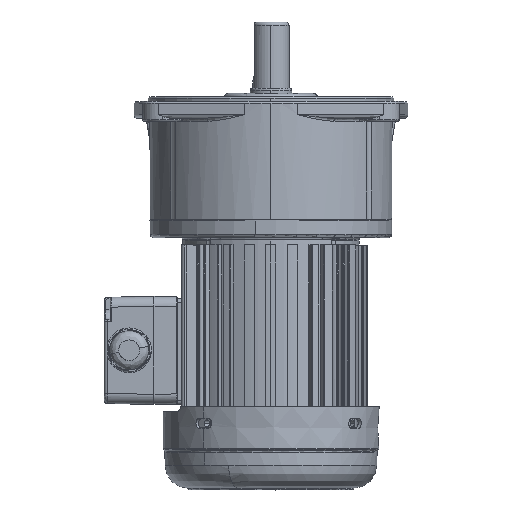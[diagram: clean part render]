
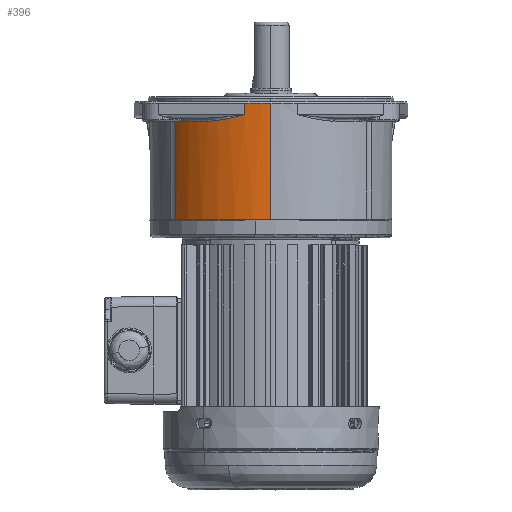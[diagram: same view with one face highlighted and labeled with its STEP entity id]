
A CAD part, top view. The second image highlights one B-rep face of the part: STEP entity #396.
In plain terms, the highlighted cylindrical face has radius 73 mm (diameter 146 mm), a partial arc.
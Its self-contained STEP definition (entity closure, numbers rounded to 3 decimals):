
#396 = ADVANCED_FACE ( 'NONE', ( #21858 ), #101151, .T. ) ;
#5426 = DIRECTION ( 'NONE',  ( 0., -1., 0. ) ) ;
#7381 = AXIS2_PLACEMENT_3D ( 'NONE', #104526, #76802, #85201 ) ;
#7395 = CARTESIAN_POINT ( 'NONE',  ( 28.773, 10.941, 84.59 ) ) ;
#9285 = CARTESIAN_POINT ( 'NONE',  ( 28.027, 10.796, 84.906 ) ) ;
#11040 = CARTESIAN_POINT ( 'NONE',  ( 0., 12., 17.5 ) ) ;
#14907 = ORIENTED_EDGE ( 'NONE', *, *, #123490, .T. ) ;
#16839 = EDGE_CURVE ( 'NONE', #18750, #32954, #83168, .T. ) ;
#17698 = CARTESIAN_POINT ( 'NONE',  ( 22.062, 9.487, 87.087 ) ) ;
#18750 = VERTEX_POINT ( 'NONE', #121777 ) ;
#18985 = CARTESIAN_POINT ( 'NONE',  ( 22.804, 9.661, 86.847 ) ) ;
#19376 = AXIS2_PLACEMENT_3D ( 'NONE', #11040, #120039, #59487 ) ;
#19616 = CARTESIAN_POINT ( 'NONE',  ( 24.004, 9.939, 86.451 ) ) ;
#21858 = FACE_OUTER_BOUND ( 'NONE', #42413, .T. ) ;
#22542 = ORIENTED_EDGE ( 'NONE', *, *, #105965, .T. ) ;
#23126 = CARTESIAN_POINT ( 'NONE',  ( 0., 0., 17.5 ) ) ;
#24200 = CARTESIAN_POINT ( 'NONE',  ( 0., 1., 90.5 ) ) ;
#24683 = ORIENTED_EDGE ( 'NONE', *, *, #118380, .F. ) ;
#24829 = VERTEX_POINT ( 'NONE', #52053 ) ;
#25905 = CARTESIAN_POINT ( 'NONE',  ( 15.896, 8., 88.748 ) ) ;
#26408 = ORIENTED_EDGE ( 'NONE', *, *, #35704, .F. ) ;
#26683 = DIRECTION ( 'NONE',  ( 0., 1., 0. ) ) ;
#26974 = DIRECTION ( 'NONE',  ( 0., 1., 0. ) ) ;
#28043 = CARTESIAN_POINT ( 'NONE',  ( 22.883, 9.679, 86.821 ) ) ;
#28159 = ORIENTED_EDGE ( 'NONE', *, *, #16839, .T. ) ;
#28691 = CARTESIAN_POINT ( 'NONE',  ( 32.327, 11.559, 82.975 ) ) ;
#29313 = CARTESIAN_POINT ( 'NONE',  ( 22.877, 9.678, 86.823 ) ) ;
#32457 = VERTEX_POINT ( 'NONE', #24200 ) ;
#32954 = VERTEX_POINT ( 'NONE', #126353 ) ;
#33424 = DIRECTION ( 'NONE',  ( 0., 1., 0. ) ) ;
#35704 = EDGE_CURVE ( 'NONE', #24829, #32457, #118602, .T. ) ;
#35760 = VERTEX_POINT ( 'NONE', #38068 ) ;
#35795 = LINE ( 'NONE', #75135, #63934 ) ;
#36235 = ORIENTED_EDGE ( 'NONE', *, *, #85437, .T. ) ;
#36442 = CARTESIAN_POINT ( 'NONE',  ( 20.58, 9.134, 87.542 ) ) ;
#37091 = CARTESIAN_POINT ( 'NONE',  ( 30.639, 11.295, 83.79 ) ) ;
#37700 = CARTESIAN_POINT ( 'NONE',  ( 21.833, 9.433, 87.159 ) ) ;
#38068 = CARTESIAN_POINT ( 'NONE',  ( 0., 71., 90.5 ) ) ;
#42413 = EDGE_LOOP ( 'NONE', ( #24683, #26408, #14907, #57497, #36235, #28159, #22542, #93732 ) ) ;
#46099 = AXIS2_PLACEMENT_3D ( 'NONE', #23126, #33424, #61832 ) ;
#46107 = CARTESIAN_POINT ( 'NONE',  ( 28.734, 10.933, 84.607 ) ) ;
#46547 = VECTOR ( 'NONE', #26974, 1000. ) ;
#47558 = LINE ( 'NONE', #115901, #46547 ) ;
#51934 = VECTOR ( 'NONE', #26683, 1000. ) ;
#52053 = CARTESIAN_POINT ( 'NONE',  ( 15.896, 1., 88.748 ) ) ;
#54784 = VERTEX_POINT ( 'NONE', #97996 ) ;
#57497 = ORIENTED_EDGE ( 'NONE', *, *, #75650, .T. ) ;
#57735 = CARTESIAN_POINT ( 'NONE',  ( 25.052, 10.174, 86.075 ) ) ;
#58352 = CARTESIAN_POINT ( 'NONE',  ( 15.896, 8., 88.748 ) ) ;
#58978 = CARTESIAN_POINT ( 'NONE',  ( 26.526, 10.49, 85.512 ) ) ;
#59487 = DIRECTION ( 'NONE',  ( 0.746, 0., 0.666 ) ) ;
#61832 = DIRECTION ( 'NONE',  ( 0., 0., 1. ) ) ;
#63120 = VERTEX_POINT ( 'NONE', #25905 ) ;
#63934 = VECTOR ( 'NONE', #114434, 1000. ) ;
#66739 = CARTESIAN_POINT ( 'NONE',  ( 18.835, 8.714, 88.039 ) ) ;
#67380 = CARTESIAN_POINT ( 'NONE',  ( 22.719, 9.641, 86.875 ) ) ;
#68655 = CARTESIAN_POINT ( 'NONE',  ( 21.111, 9.262, 87.383 ) ) ;
#71260 = EDGE_CURVE ( 'NONE', #54784, #35760, #90309, .T. ) ;
#73203 = DIRECTION ( 'NONE',  ( 0., 0., 1. ) ) ;
#75135 = CARTESIAN_POINT ( 'NONE',  ( 0., 0., 90.5 ) ) ;
#75366 = B_SPLINE_CURVE_WITH_KNOTS ( 'NONE', 3,
 ( #58352, #77053, #66739, #36442, #68655, #37700, #17698, #127326, #124778, #67380, #18985, #76435, #107949, #29313, #28043, #107319, #19616, #57735, #58978, #106683, #97666, #9285, #125427, #115734, #98305, #46107, #75789, #7395, #37091, #28691, #116364, #95760, #85461 ),
 .UNSPECIFIED., .F., .F.,
 ( 4, 2, 2, 2, 1, 1, 1, 1, 1, 2, 2, 2, 2, 1, 1, 1, 1, 2, 2, 2, 4 ),
 ( 0., 0.125, 0.187, 0.219, 0.234, 0.242, 0.246, 0.248, 0.249, 0.25, 0.25, 0.375, 0.437, 0.469, 0.484, 0.492, 0.496, 0.498, 0.5, 0.75, 1. ),
 .UNSPECIFIED. ) ;
#75650 = EDGE_CURVE ( 'NONE', #63120, #126606, #75366, .T. ) ;
#75789 = CARTESIAN_POINT ( 'NONE',  ( 28.761, 10.939, 84.595 ) ) ;
#76435 = CARTESIAN_POINT ( 'NONE',  ( 22.847, 9.671, 86.833 ) ) ;
#76802 = DIRECTION ( 'NONE',  ( 0., -1., 0. ) ) ;
#77053 = CARTESIAN_POINT ( 'NONE',  ( 17.47, 8.383, 88.397 ) ) ;
#83168 = CIRCLE ( 'NONE', #19376, 73. ) ;
#85201 = DIRECTION ( 'NONE',  ( 0.218, 0., 0.976 ) ) ;
#85437 = EDGE_CURVE ( 'NONE', #126606, #18750, #108548, .T. ) ;
#85461 = CARTESIAN_POINT ( 'NONE',  ( 38.005, 12., 79.826 ) ) ;
#89631 = DIRECTION ( 'NONE',  ( 0.521, 0., 0.854 ) ) ;
#90088 = CARTESIAN_POINT ( 'NONE',  ( 38.005, 12., 79.826 ) ) ;
#90309 = CIRCLE ( 'NONE', #104728, 73. ) ;
#93732 = ORIENTED_EDGE ( 'NONE', *, *, #71260, .T. ) ;
#95760 = CARTESIAN_POINT ( 'NONE',  ( 36.771, 12., 80.579 ) ) ;
#97666 = CARTESIAN_POINT ( 'NONE',  ( 27.689, 10.729, 85.045 ) ) ;
#97996 = CARTESIAN_POINT ( 'NONE',  ( 57.37, 71., 62.641 ) ) ;
#98251 = AXIS2_PLACEMENT_3D ( 'NONE', #108977, #108336, #89631 ) ;
#98305 = CARTESIAN_POINT ( 'NONE',  ( 28.694, 10.926, 84.624 ) ) ;
#101151 = CYLINDRICAL_SURFACE ( 'NONE', #46099, 73. ) ;
#104091 = CARTESIAN_POINT ( 'NONE',  ( 0., 71., 17.5 ) ) ;
#104526 = CARTESIAN_POINT ( 'NONE',  ( 0., 1., 17.5 ) ) ;
#104728 = AXIS2_PLACEMENT_3D ( 'NONE', #104091, #5426, #73203 ) ;
#105965 = EDGE_CURVE ( 'NONE', #32954, #54784, #47558, .T. ) ;
#106683 = CARTESIAN_POINT ( 'NONE',  ( 27.001, 10.589, 85.325 ) ) ;
#107319 = CARTESIAN_POINT ( 'NONE',  ( 22.884, 9.68, 86.82 ) ) ;
#107949 = CARTESIAN_POINT ( 'NONE',  ( 22.868, 9.676, 86.826 ) ) ;
#108336 = DIRECTION ( 'NONE',  ( 0., 1., 0. ) ) ;
#108548 = CIRCLE ( 'NONE', #98251, 73. ) ;
#108977 = CARTESIAN_POINT ( 'NONE',  ( 0., 12., 17.5 ) ) ;
#114434 = DIRECTION ( 'NONE',  ( 0., 1., 0. ) ) ;
#114992 = CARTESIAN_POINT ( 'NONE',  ( 15.896, 1., 88.748 ) ) ;
#115734 = CARTESIAN_POINT ( 'NONE',  ( 28.6, 10.908, 84.664 ) ) ;
#115901 = CARTESIAN_POINT ( 'NONE',  ( 57.37, 0., 62.641 ) ) ;
#116250 = LINE ( 'NONE', #114992, #51934 ) ;
#116364 = CARTESIAN_POINT ( 'NONE',  ( 35.392, 11.912, 81.37 ) ) ;
#118380 = EDGE_CURVE ( 'NONE', #32457, #35760, #35795, .T. ) ;
#118602 = CIRCLE ( 'NONE', #7381, 73. ) ;
#120039 = DIRECTION ( 'NONE',  ( 0., 1., 0. ) ) ;
#121777 = CARTESIAN_POINT ( 'NONE',  ( 54.432, 12., 66.144 ) ) ;
#123490 = EDGE_CURVE ( 'NONE', #24829, #63120, #116250, .T. ) ;
#124778 = CARTESIAN_POINT ( 'NONE',  ( 22.543, 9.6, 86.932 ) ) ;
#125427 = CARTESIAN_POINT ( 'NONE',  ( 28.411, 10.871, 84.745 ) ) ;
#126353 = CARTESIAN_POINT ( 'NONE',  ( 57.37, 12., 62.641 ) ) ;
#126606 = VERTEX_POINT ( 'NONE', #90088 ) ;
#127326 = CARTESIAN_POINT ( 'NONE',  ( 22.386, 9.563, 86.983 ) ) ;
